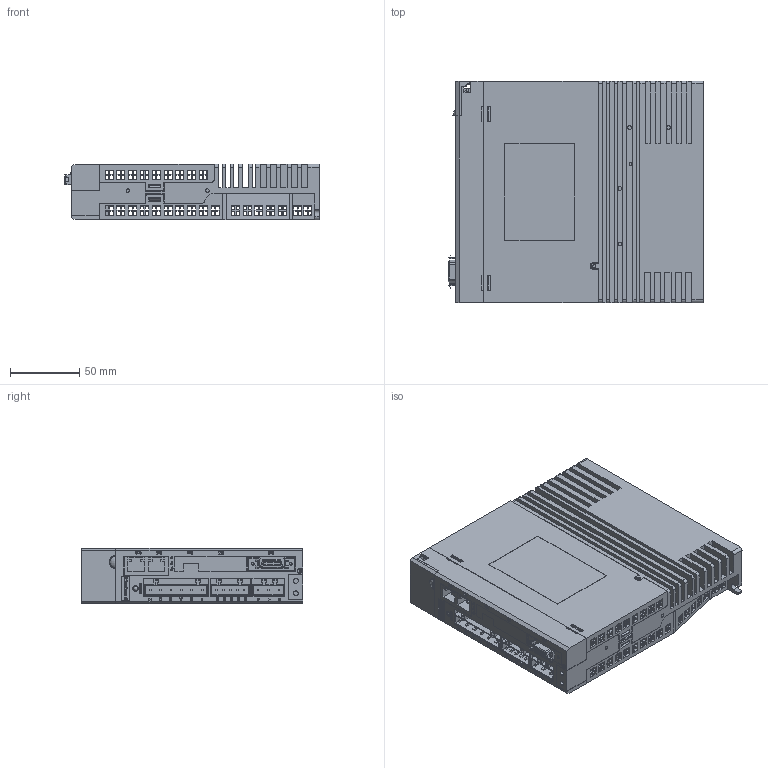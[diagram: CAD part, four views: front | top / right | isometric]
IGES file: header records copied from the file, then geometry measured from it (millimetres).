
Start section: SolidWorks IGES file using analytic representation for surfaces
Global section: file name: Z:\Products\Servo\Servo Drive\PRONET-04AEG-EC\PRONET-04AEG-EC.IGS; native system: SolidWorks 2017; preprocessor: SolidWorks 2017; author: laorb; date: 190417.144729; units: millimetre
Bounding box: 184.2 x 160 x 40 mm (x, y, z)
Surface area: 206416.6 mm2 (no closed solid volume)
Topology: 0 solids, 0 shells, 3539 faces, 29218 edges, 29212 vertices
Faces by surface type: bspline 3191, revolution 348
